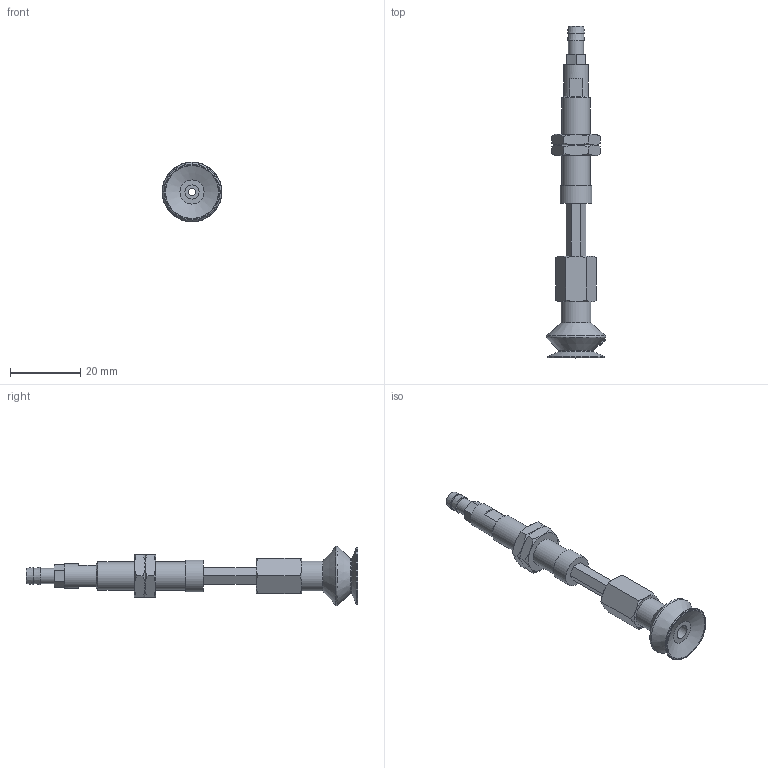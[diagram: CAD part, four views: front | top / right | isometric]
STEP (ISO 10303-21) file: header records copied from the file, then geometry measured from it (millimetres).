
FILE_DESCRIPTION(('STEP AP203'),'1');
FILE_NAME('-T.stp','2025-08-27T00:49:45',(' '),(' '),'Spatial InterOp 3D',' ',' ');
FILE_SCHEMA(('CONFIG_CONTROL_DESIGN'));
Length unit declared in the file: millimetre
Products named in the file (9): BNABPBTH-15A-15-※-T; ADAPTER; NAPATH-10A-15--M; Nut-15A-S-PB; NAPBTH-15A-15-FBODY; BPBG-15A-※; __27; BPBG-15A; T
Assembly tree (9 placements, depth 3):
  BNABPBTH-15A-15-※-T
    ADAPTER
    NAPATH-10A-15--M
    Nut-15A-S-PB  x2
    NAPBTH-15A-15-FBODY
    BPBG-15A-※
      __27
      BPBG-15A
    T
Bounding box: 17 x 94.5 x 17 mm (x, y, z)
Volume: 5203.7 mm3; surface area: 5901.5 mm2
Topology: 8 solids, 8 shells, 156 faces, 337 edges, 209 vertices
Faces by surface type: plane 66, cone 53, cylinder 18, torus 11, bspline 8
Full cylindrical faces by diameter (mm): 2 x2, 3 x1, 4 x3, 4.134 x1, 4.3 x1, 5 x1, 6 x2, 7 x1, 7.188 x2, 8 x1, 8.5 x1, 9 x1, 16 x1
Entity records: 5079 total; most frequent: CARTESIAN_POINT 2018, DIRECTION 531, ORIENTED_EDGE 472, EDGE_CURVE 236, AXIS2_PLACEMENT_3D 224, EDGE_LOOP 197, VERTEX_POINT 169, FACE_OUTER_BOUND 161
